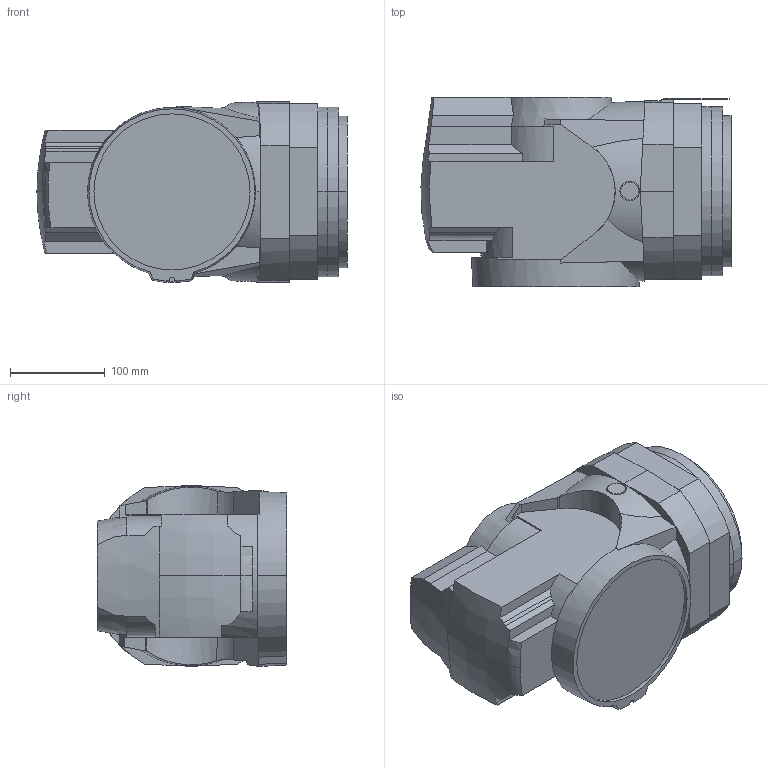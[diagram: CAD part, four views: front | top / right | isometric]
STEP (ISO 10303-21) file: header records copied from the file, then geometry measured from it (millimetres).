
FILE_DESCRIPTION (( 'STEP AP203' ), '1' );
FILE_NAME ('IRB6700-MH6_220-300_IRC5_rev00_LINK05_CAD.STEP', '2014-08-27T11:27:45', ( 'ABB' ), ( 'ABB' ), 'SwSTEP 2.0', 'SolidWorks 2012', '' );
FILE_SCHEMA (( 'CONFIG_CONTROL_DESIGN' ));
Length unit declared in the file: millimetre
Products named in the file (1): IRB6700-MH6_220-300_IRC5_rev00_LINK05_CAD
Bounding box: 327.75 x 200.5 x 191.21 mm (x, y, z)
Volume: 8131405.3 mm3; surface area: 286677 mm2
Topology: 1 solids, 1 shells, 212 faces, 577 edges, 383 vertices
Faces by surface type: plane 137, cylinder 38, bspline 24, cone 7, torus 6
Entity records: 8311 total; most frequent: CARTESIAN_POINT 3154, ORIENTED_EDGE 1154, DIRECTION 907, EDGE_CURVE 577, VERTEX_POINT 383, VECTOR 349, LINE 349, AXIS2_PLACEMENT_3D 279
